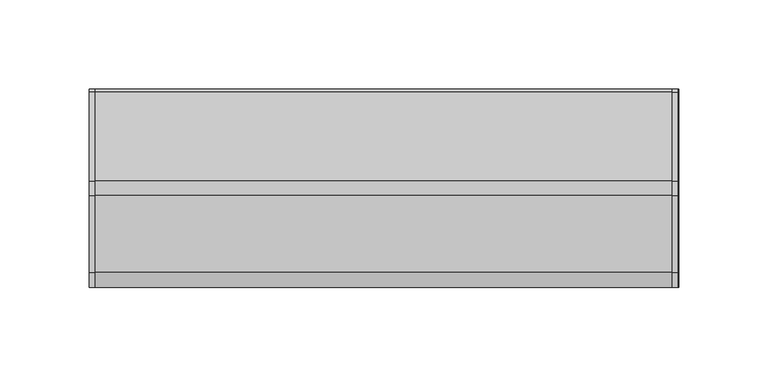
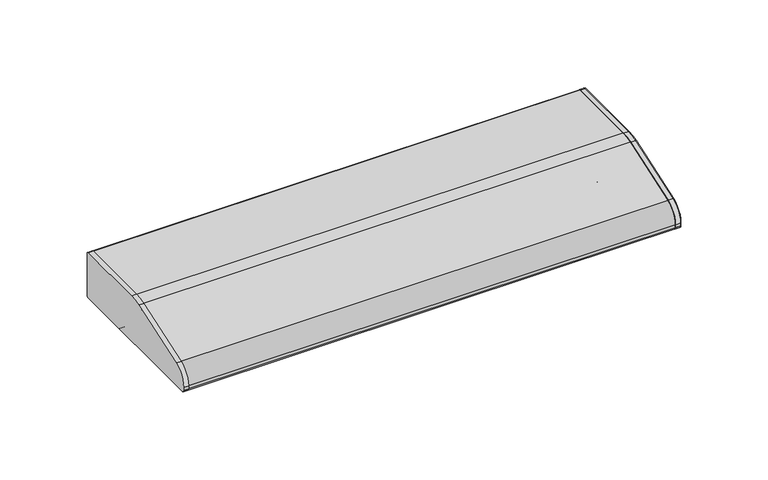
"""IFC4 building model written with IfcOpenShell, lengths in millimetres: light fixture geometry, HermanMiller_SupplementalProducts_G6136_UtilityTaskLight : AO Etho Canvas 24W."""

import ifcopenshell
import ifcopenshell.guid

model = None  # the IFC model being written
_history = None  # IfcOwnerHistory: only IFC2X3 demands one
_inside = {}  # id of a spatial element -> (the spatial element, [elements in it])
_under = {}  # id of a project, library or spatial element -> (it, [spatial elements below it])
_declared = {}  # id of a project -> (the project, [libraries it declares])
_typed = {}  # id of a type object -> (the type object, [elements of that type])
_made_of = {}  # id of a material, layer set ... -> (it, [elements and type objects made of it])


def new_model(schema):
    """Start an empty IFC model of exactly this schema.

    Asked for "IFC4X3", IfcOpenShell would pick the latest addendum, in which some entities
    have other attributes; the version numbers below select the first issue.
    IFC2X3 requires an IfcOwnerHistory on every rooted entity: one is made here for all.
    """
    global model, _history
    if schema == "IFC4X3":
        model = ifcopenshell.file(schema_version=(4, 3, 0, 0))
    else:
        model = ifcopenshell.file(schema=schema)
    _inside.clear()
    _under.clear()
    _declared.clear()
    _typed.clear()
    _made_of.clear()
    _history = None
    if model.schema == "IFC2X3":
        org = make("IfcOrganization", Name="unknown")
        user = make(
            "IfcPersonAndOrganization",
            ThePerson=make("IfcPerson", FamilyName="unknown"),
            TheOrganization=org,
        )
        app = make(
            "IfcApplication",
            ApplicationDeveloper=org,
            Version="unknown",
            ApplicationFullName="unknown",
            ApplicationIdentifier="unknown",
        )
        _history = make(
            "IfcOwnerHistory",
            OwningUser=user,
            OwningApplication=app,
            ChangeAction="ADDED",
            CreationDate=0,
        )
    return model


def make(cls, **values):
    """One entity of the class cls with the attributes given. An attribute that is None is left unset."""
    return model.create_entity(
        cls, **{name: value for name, value in values.items() if value is not None}
    )


def rooted(cls, **values):
    """An entity with a GlobalId (a new one), such as an element, a storey or a relation."""
    return make(cls, GlobalId=ifcopenshell.guid.new(), OwnerHistory=_history, **values)


def si_unit(unit_type, name, prefix=None):
    """IfcSIUnit, for example si_unit("LENGTHUNIT", "METRE", prefix="MILLI")."""
    return make("IfcSIUnit", UnitType=unit_type, Prefix=prefix, Name=name)


def assignment(units):
    """IfcUnitAssignment: the units of a project."""
    return None if units is None else make("IfcUnitAssignment", Units=units)


def point(xyz):
    """IfcCartesianPoint."""
    return None if xyz is None else make("IfcCartesianPoint", Coordinates=xyz)


def direction(xyz):
    """IfcDirection."""
    return None if xyz is None else make("IfcDirection", DirectionRatios=xyz)


def frame(location, z_axis=None, x_axis=None):
    """IfcAxis2Placement3D, a coordinate frame: its origin and axes. An axis left out is left unset."""
    return make(
        "IfcAxis2Placement3D",
        Location=point(location),
        Axis=direction(z_axis),
        RefDirection=direction(x_axis),
    )


def frame_2d(location, x_axis=None):
    """IfcAxis2Placement2D, a coordinate frame in the plane: its origin and x axis."""
    return make(
        "IfcAxis2Placement2D", Location=point(location), RefDirection=direction(x_axis)
    )


def origin():
    """The frame at (0, 0, 0) with its axes left unset."""
    return frame((0.0, 0.0, 0.0))


def place(relative_to, where):
    """IfcLocalPlacement: puts the frame where relative to a parent placement (None: the world)."""
    return make(
        "IfcLocalPlacement", PlacementRelTo=relative_to, RelativePlacement=where
    )


def context(
    kind, dimensions, precision=None, world=None, true_north=None, identifier=None
):
    """IfcGeometricRepresentationContext, for example the 3D "Model" context."""
    return make(
        "IfcGeometricRepresentationContext",
        ContextIdentifier=identifier,
        ContextType=kind,
        CoordinateSpaceDimension=dimensions,
        Precision=precision,
        WorldCoordinateSystem=world,
        TrueNorth=true_north,
    )


def project(units=None, contexts=None):
    """IfcProject with its units and contexts."""
    return rooted(
        "IfcProject",
        Name="project",
        RepresentationContexts=contexts,
        UnitsInContext=assignment(units),
    )


def spatial(cls, under=None, at=None, **own):
    """A site, building, storey or space (cls), placed at a placement, below another one or the project."""
    s = rooted(cls, ObjectPlacement=at, **own)
    if under is not None:
        _under.setdefault(under.id(), (under, []))[1].append(s)
    return s


def polyline(points):
    """IfcPolyline through the points."""
    return make("IfcPolyline", Points=[point(p) for p in points])


def circle_curve(where, radius):
    """IfcCircle in the frame where."""
    return make("IfcCircle", Position=where, Radius=radius)


def trimmed(basis, trim1, trim2, sense, master):
    """IfcTrimmedCurve: the piece of a basis curve between two trims."""
    return make(
        "IfcTrimmedCurve",
        BasisCurve=basis,
        Trim1=trim1,
        Trim2=trim2,
        SenseAgreement=sense,
        MasterRepresentation=master,
    )


def segment(curve, same_sense, transition):
    """IfcCompositeCurveSegment."""
    return make(
        "IfcCompositeCurveSegment",
        Transition=transition,
        SameSense=same_sense,
        ParentCurve=curve,
    )


def composite_curve(segments, self_intersect=None):
    """IfcCompositeCurve: segments joined end to end."""
    return make("IfcCompositeCurve", Segments=segments, SelfIntersect=self_intersect)


def outline(outer, holes=None, kind="AREA"):
    """IfcArbitraryClosedProfileDef: a profile drawn as a closed curve; with holes, ...WithVoids."""
    if holes is None:
        return make("IfcArbitraryClosedProfileDef", ProfileType=kind, OuterCurve=outer)
    return make(
        "IfcArbitraryProfileDefWithVoids",
        ProfileType=kind,
        OuterCurve=outer,
        InnerCurves=holes,
    )


def extrude(swept, where, along, depth):
    """IfcExtrudedAreaSolid: the profile swept, set in the frame where, extruded along a direction by depth."""
    return make(
        "IfcExtrudedAreaSolid",
        SweptArea=swept,
        Position=where,
        ExtrudedDirection=direction(along),
        Depth=depth,
    )


def shape(context_of_items, identifier, shape_type, items):
    """IfcShapeRepresentation: the items that make up one representation, for example the "Body"."""
    return make(
        "IfcShapeRepresentation",
        ContextOfItems=context_of_items,
        RepresentationIdentifier=identifier,
        RepresentationType=shape_type,
        Items=items,
    )


def source(mapping_origin, context_of_items, identifier, shape_type, items):
    """IfcRepresentationMap: a shape defined once, which mapped items show again and again."""
    return make(
        "IfcRepresentationMap",
        MappingOrigin=mapping_origin,
        MappedRepresentation=shape(context_of_items, identifier, shape_type, items),
    )


def transform(
    local_origin,
    x_axis=None,
    y_axis=None,
    z_axis=None,
    scale=None,
    scale2=None,
    scale3=None,
    uniform=True,
):
    """IfcCartesianTransformationOperator3D, or its non-uniform kind. x_axis, y_axis, z_axis: its Axis1, 2, 3."""
    if uniform:
        return make(
            "IfcCartesianTransformationOperator3D",
            Axis1=direction(x_axis),
            Axis2=direction(y_axis),
            LocalOrigin=point(local_origin),
            Scale=scale,
            Axis3=direction(z_axis),
        )
    return make(
        "IfcCartesianTransformationOperator3DnonUniform",
        Axis1=direction(x_axis),
        Axis2=direction(y_axis),
        LocalOrigin=point(local_origin),
        Scale=scale,
        Axis3=direction(z_axis),
        Scale2=scale2,
        Scale3=scale3,
    )


def mapped(mapping_source, mapping_target):
    """IfcMappedItem: shows the shape of a source again, moved by a transform."""
    return make(
        "IfcMappedItem", MappingSource=mapping_source, MappingTarget=mapping_target
    )


def made_of(thing, what):
    """Note that an element or type object is made of a material, layer set ...; save() writes the relation."""
    if what is not None:
        _made_of.setdefault(what.id(), (what, []))[1].append(thing)
    return thing


def element(
    cls,
    number,
    at=None,
    inside=None,
    cuts=None,
    type_object=None,
    material=None,
    context=None,
    identifier="Body",
    shape_type=None,
    held_by="IfcProductDefinitionShape",
    body=None,
    shapes=None,
    **own,
):
    """One element of the class cls, such as IfcWall. Its Tag is "e" and its number.

    at: its placement. inside: the storey or other place that contains it. cuts: it is an
    opening in that element (IfcRelVoidsElement). A single representation is given by context,
    identifier, shape_type and body (its items); several are given by shapes. held_by: the class
    of the entity that holds the representations. save() writes the other relations.
    """
    e = rooted(cls, Tag="e%d" % number, ObjectPlacement=at, **own)
    if body is not None:
        shapes = [shape(context, identifier, shape_type, body)]
    if shapes is not None:
        e.Representation = make(held_by, Representations=shapes)
    if inside is not None:
        _inside.setdefault(inside.id(), (inside, []))[1].append(e)
    if cuts is not None:
        rooted(
            "IfcRelVoidsElement", RelatingBuildingElement=cuts, RelatedOpeningElement=e
        )
    if type_object is not None:
        _typed.setdefault(type_object.id(), (type_object, []))[1].append(e)
    return made_of(e, material)


def aggregate(whole, parts):
    """IfcRelAggregates: a whole, such as a stair, and the parts it consists of."""
    return rooted("IfcRelAggregates", RelatingObject=whole, RelatedObjects=parts)


def save(model, path):
    """Write the relations noted so far, then the file.

    IfcRelAggregates (storeys below a building ...), IfcRelContainedInSpatialStructure (elements
    in a storey), IfcRelDefinesByType, IfcRelAssociatesMaterial and IfcRelDeclares: one each for
    every whole, place, type object, material and project.
    """
    for whole, parts in _under.values():
        aggregate(whole, parts)
    for where, things in _inside.values():
        rooted(
            "IfcRelContainedInSpatialStructure",
            RelatedElements=things,
            RelatingStructure=where,
        )
    for kind, things in _typed.values():
        rooted("IfcRelDefinesByType", RelatedObjects=things, RelatingType=kind)
    for what, things in _made_of.values():
        rooted("IfcRelAssociatesMaterial", RelatedObjects=things, RelatingMaterial=what)
    for by, libraries in _declared.values():
        rooted("IfcRelDeclares", RelatingContext=by, RelatedDefinitions=libraries)
    model.write(path)


def light_fixture_29e651cd(model_context):
    return source(origin(), model_context, "Body", "SweptSolid", [
        extrude(outline(composite_curve([segment(polyline([(53.975, 1295.4), (-53.975, 1295.4)]), True, "CONTINUOUS"), segment(trimmed(circle_curve(frame_2d((-53.975, 1296.9875)), 1.5875), [point((-53.975, 1295.4))], [point((-55.5625, 1296.9875))], False, "CARTESIAN"), True, "CONTINUOUS"), segment(polyline([(-55.5625, 1296.9875), (-55.5625, 1299.0285714)]), True, "CONTINUOUS"), segment(trimmed(circle_curve(frame_2d((-42.8625, 1299.0285714)), 12.7), [point((-55.5625, 1299.0285714))], [point((-46.9814189, 1311.0420849))], False, "CARTESIAN"), True, "CONTINUOUS"), segment(polyline([(-46.9814189, 1311.0420849), (-4.0045045, 1325.777027)]), True, "CONTINUOUS"), segment(trimmed(circle_curve(frame_2d((4.2333333, 1301.75)), 25.4), [point((-4.0045045, 1325.777027))], [point((4.2333333, 1327.15))], False, "CARTESIAN"), True, "CONTINUOUS"), segment(polyline([(4.2333333, 1327.15), (53.975, 1327.15)]), True, "CONTINUOUS"), segment(trimmed(circle_curve(frame_2d((53.975, 1325.5625)), 1.5875), [point((53.975, 1327.15))], [point((55.5625, 1325.5625))], False, "CARTESIAN"), True, "CONTINUOUS"), segment(polyline([(55.5625, 1325.5625), (55.5625, 1296.9875)]), True, "CONTINUOUS"), segment(trimmed(circle_curve(frame_2d((53.975, 1296.9875)), 1.5875), [point((55.5625, 1296.9875))], [point((53.975, 1295.4))], False, "CARTESIAN"), True, "CONTINUOUS")], self_intersect=False)), frame((161.544, 0.0, 0.0), z_axis=(1.0, 0.0, 0.0), x_axis=(0.0, 1.0, 0.0)), (0.0, 0.0, 1.0), 3.175),
        extrude(outline(composite_curve([segment(trimmed(circle_curve(frame_2d((53.975, 1325.5625)), 1.5875), [point((53.975, 1327.15))], [point((55.5625, 1325.5625))], False, "CARTESIAN"), True, "CONTINUOUS"), segment(polyline([(55.5625, 1325.5625), (55.5625, 1296.9875)]), True, "CONTINUOUS"), segment(trimmed(circle_curve(frame_2d((53.975, 1296.9875)), 1.5875), [point((55.5625, 1296.9875))], [point((53.975, 1295.4))], False, "CARTESIAN"), True, "CONTINUOUS"), segment(polyline([(53.975, 1295.4), (-53.975, 1295.4)]), True, "CONTINUOUS"), segment(trimmed(circle_curve(frame_2d((-53.975, 1296.9875)), 1.5875), [point((-53.975, 1295.4))], [point((-55.5625, 1296.9875))], False, "CARTESIAN"), True, "CONTINUOUS"), segment(polyline([(-55.5625, 1296.9875), (-55.5625, 1299.0285714)]), True, "CONTINUOUS"), segment(trimmed(circle_curve(frame_2d((-42.8625, 1299.0285714)), 12.7), [point((-55.5625, 1299.0285714))], [point((-46.9814189, 1311.0420849))], False, "CARTESIAN"), True, "CONTINUOUS"), segment(polyline([(-46.9814189, 1311.0420849), (-4.0045045, 1325.777027)]), True, "CONTINUOUS"), segment(trimmed(circle_curve(frame_2d((4.2333333, 1301.75)), 25.4), [point((-4.0045045, 1325.777027))], [point((4.2333333, 1327.15))], False, "CARTESIAN"), True, "CONTINUOUS"), segment(polyline([(4.2333333, 1327.15), (53.975, 1327.15)]), True, "CONTINUOUS")], self_intersect=False)), frame((-164.719, 0.0, 0.0), z_axis=(1.0, 0.0, 0.0), x_axis=(0.0, 1.0, 0.0)), (0.0, 0.0, 1.0), 3.175),
        extrude(outline(composite_curve([segment(polyline([(55.5625, 1325.5625), (55.5625, 1296.9875)]), True, "CONTINUOUS"), segment(trimmed(circle_curve(frame_2d((53.975, 1296.9875)), 1.5875), [point((55.5625, 1296.9875))], [point((53.975, 1295.4))], False, "CARTESIAN"), True, "CONTINUOUS"), segment(polyline([(53.975, 1295.4), (19.05, 1295.4)]), True, "CONTINUOUS"), segment(trimmed(circle_curve(frame_2d((19.05, 1296.9875)), 1.5875), [point((19.05, 1295.4))], [point((17.4625, 1296.9875))], False, "CARTESIAN"), True, "CONTINUOUS"), segment(polyline([(17.4625, 1296.9875), (17.4625, 1325.5625), (4.4979167, 1325.5625)]), True, "CONTINUOUS"), segment(trimmed(circle_curve(frame_2d((4.4979167, 1300.1625)), 25.4), [point((4.4979167, 1325.5625))], [point((-3.7399212, 1324.189527))], True, "CARTESIAN"), True, "CONTINUOUS"), segment(polyline([(-3.7399212, 1324.189527), (-37.4564189, 1312.6295849)]), True, "CONTINUOUS"), segment(trimmed(circle_curve(frame_2d((-33.3375, 1300.6160714)), 12.7), [point((-37.4564189, 1312.6295849))], [point((-46.0375, 1300.6160714))], True, "CARTESIAN"), True, "CONTINUOUS"), segment(polyline([(-46.0375, 1300.6160714), (-46.0375, 1296.9875)]), True, "CONTINUOUS"), segment(trimmed(circle_curve(frame_2d((-47.625, 1296.9875)), 1.5875), [point((-46.0375, 1296.9875))], [point((-47.625, 1295.4))], False, "CARTESIAN"), True, "CONTINUOUS"), segment(polyline([(-47.625, 1295.4), (-53.975, 1295.4)]), True, "CONTINUOUS"), segment(trimmed(circle_curve(frame_2d((-53.975, 1296.9875)), 1.5875), [point((-53.975, 1295.4))], [point((-55.5625, 1296.9875))], False, "CARTESIAN"), True, "CONTINUOUS"), segment(polyline([(-55.5625, 1296.9875), (-55.5625, 1299.0285714)]), True, "CONTINUOUS"), segment(trimmed(circle_curve(frame_2d((-42.8625, 1299.0285714)), 12.7), [point((-55.5625, 1299.0285714))], [point((-46.9814189, 1311.0420849))], False, "CARTESIAN"), True, "CONTINUOUS"), segment(polyline([(-46.9814189, 1311.0420849), (-4.0045045, 1325.777027)]), True, "CONTINUOUS"), segment(trimmed(circle_curve(frame_2d((4.2333333, 1301.75)), 25.4), [point((-4.0045045, 1325.777027))], [point((4.2333333, 1327.15))], False, "CARTESIAN"), True, "CONTINUOUS"), segment(polyline([(4.2333333, 1327.15), (53.975, 1327.15)]), True, "CONTINUOUS"), segment(trimmed(circle_curve(frame_2d((53.975, 1325.5625)), 1.5875), [point((53.975, 1327.15))], [point((55.5625, 1325.5625))], False, "CARTESIAN"), True, "CONTINUOUS")], self_intersect=False)), frame((-164.719, 0.0, 0.0), z_axis=(1.0, 0.0, 0.0), x_axis=(0.0, 1.0, 0.0)), (0.0, 0.0, 1.0), 329.9040011),
        extrude(outline(composite_curve([segment(trimmed(circle_curve(frame_2d((1.5875, 1312.8625)), 9.525), [point((-7.9375, 1312.8625))], [point((11.1125, 1312.8625))], False, "CARTESIAN"), True, "CONTINUOUS"), segment(trimmed(circle_curve(frame_2d((1.5875, 1312.8625)), 9.525), [point((11.1125, 1312.8625))], [point((-7.9375, 1312.8625))], False, "CARTESIAN"), True, "CONTINUOUS")], self_intersect=False)), frame((139.319, 0.0, 0.0), z_axis=(1.0, 0.0, 0.0), x_axis=(0.0, 1.0, 0.0)), (0.0, 0.0, 1.0), 12.7),
        extrude(outline(composite_curve([segment(trimmed(circle_curve(frame_2d((1.5875, 1312.8625)), 9.525), [point((-7.9375, 1312.8625))], [point((11.1125, 1312.8625))], False, "CARTESIAN"), True, "CONTINUOUS"), segment(trimmed(circle_curve(frame_2d((1.5875, 1312.8625)), 9.525), [point((11.1125, 1312.8625))], [point((-7.9375, 1312.8625))], False, "CARTESIAN"), True, "CONTINUOUS")], self_intersect=False)), frame((-152.019, 0.0, 0.0), z_axis=(1.0, 0.0, 0.0), x_axis=(0.0, 1.0, 0.0)), (0.0, 0.0, 1.0), 12.7),
        extrude(outline(composite_curve([segment(trimmed(circle_curve(frame_2d((1.5875, 1312.8625)), 9.525), [point((-7.9375, 1312.8625))], [point((11.1125, 1312.8625))], False, "CARTESIAN"), True, "CONTINUOUS"), segment(trimmed(circle_curve(frame_2d((1.5875, 1312.8625)), 9.525), [point((11.1125, 1312.8625))], [point((-7.9375, 1312.8625))], False, "CARTESIAN"), True, "CONTINUOUS")], self_intersect=False)), frame((-139.319, 0.0, 0.0), z_axis=(1.0, 0.0, 0.0), x_axis=(0.0, 1.0, 0.0)), (0.0, 0.0, 1.0), 278.638),
        extrude(outline(composite_curve([segment(polyline([(17.4625, 1298.575), (-46.0375, 1298.575), (-46.0375, 1300.6160714)]), True, "CONTINUOUS"), segment(trimmed(circle_curve(frame_2d((-33.3375, 1300.6160714)), 12.7), [point((-46.0375, 1300.6160714))], [point((-37.4564189, 1312.6295849))], False, "CARTESIAN"), True, "CONTINUOUS"), segment(polyline([(-37.4564189, 1312.6295849), (-3.7399212, 1324.189527)]), True, "CONTINUOUS"), segment(trimmed(circle_curve(frame_2d((4.4979167, 1300.1625)), 25.4), [point((-3.7399212, 1324.189527))], [point((4.4979167, 1325.5625))], False, "CARTESIAN"), True, "CONTINUOUS"), segment(polyline([(4.4979167, 1325.5625), (17.4625, 1325.5625), (17.4625, 1298.575)]), True, "CONTINUOUS")], self_intersect=False)), frame((152.019, 0.0, 0.0), z_axis=(1.0, 0.0, 0.0), x_axis=(0.0, 1.0, 0.0)), (0.0, 0.0, 1.0), 9.525),
        extrude(outline(composite_curve([segment(polyline([(17.4625, 1298.575), (-46.0375, 1298.575), (-46.0375, 1300.6160714)]), True, "CONTINUOUS"), segment(trimmed(circle_curve(frame_2d((-33.3375, 1300.6160714)), 12.7), [point((-46.0375, 1300.6160714))], [point((-37.4564189, 1312.6295849))], False, "CARTESIAN"), True, "CONTINUOUS"), segment(polyline([(-37.4564189, 1312.6295849), (-3.7399212, 1324.189527)]), True, "CONTINUOUS"), segment(trimmed(circle_curve(frame_2d((4.4979167, 1300.1625)), 25.4), [point((-3.7399212, 1324.189527))], [point((4.4979167, 1325.5625))], False, "CARTESIAN"), True, "CONTINUOUS"), segment(polyline([(4.4979167, 1325.5625), (17.4625, 1325.5625), (17.4625, 1298.575)]), True, "CONTINUOUS")], self_intersect=False)), frame((-161.544, 0.0, 0.0), z_axis=(1.0, 0.0, 0.0), x_axis=(0.0, 1.0, 0.0)), (0.0, 0.0, 1.0), 9.525),
    ])


if __name__ == "__main__":
    model = new_model("IFC4")
    model_context = context("Model", 3, world=origin())
    ifc_project = project(units=[si_unit("LENGTHUNIT", "METRE", prefix="MILLI")], contexts=[model_context])
    site = spatial("IfcSite", under=ifc_project)
    building = spatial("IfcBuilding", under=site)
    placement = place(None, origin())
    light_fixture_shape = light_fixture_29e651cd(model_context)
    element("IfcLightFixture", 1, ObjectType="HermanMiller_SupplementalProducts_G6136_UtilityTaskLight : AO Etho Canvas 24W", at=placement, inside=building, context=model_context, shape_type="MappedRepresentation", body=[
        mapped(light_fixture_shape, transform((0.0, 0.0, 0.0), x_axis=(1.0, 0.0, 0.0), y_axis=(0.0, 1.0, 0.0), z_axis=(0.0, 0.0, 1.0))),
    ])
    save(model, "model.ifc")
